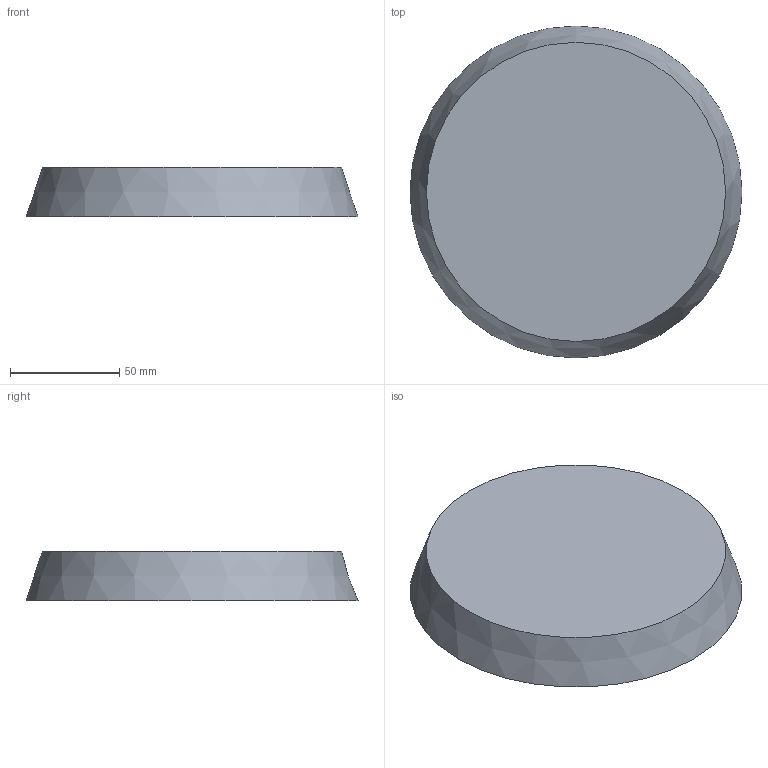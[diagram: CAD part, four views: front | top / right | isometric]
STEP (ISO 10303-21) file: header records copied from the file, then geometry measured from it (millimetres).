
FILE_DESCRIPTION(/* description */ (''),/* implementation_level */ '2;1');
FILE_NAME(/* name */ 'C:/Users/Brian/Desktop/Impressions 3D/Figurines/guitare seche/Socle vierge modifiable.step',/* time_stamp */ '2021-07-06T17:53:44+02:00',/* author */ (''),/* organization */ (''),/* preprocessor_version */ 'ST-DEVELOPER v18.1',/* originating_system */ 'Autodesk Translation Framework v10.9.0.1377',/* authorisation */ '');
FILE_SCHEMA (('AUTOMOTIVE_DESIGN { 1 0 10303 214 3 1 1 }'));
Length unit declared in the file: millimetre
Products named in the file (1): socle claude guitare
Bounding box: 152.09 x 152.09 x 22.5 mm (x, y, z)
Volume: 141488.9 mm3; surface area: 51181.4 mm2
Topology: 1 solids, 1 shells, 5 faces, 6 edges, 4 vertices
Faces by surface type: plane 3, cylinder 1, cone 1
Full cylindrical faces by diameter (mm): 122.092 x1
Entity records: 137 total; most frequent: DIRECTION 22, CARTESIAN_POINT 16, ORIENTED_EDGE 12, AXIS2_PLACEMENT_3D 10, EDGE_LOOP 6, EDGE_CURVE 6, FACE_OUTER_BOUND 5, ADVANCED_FACE 5
